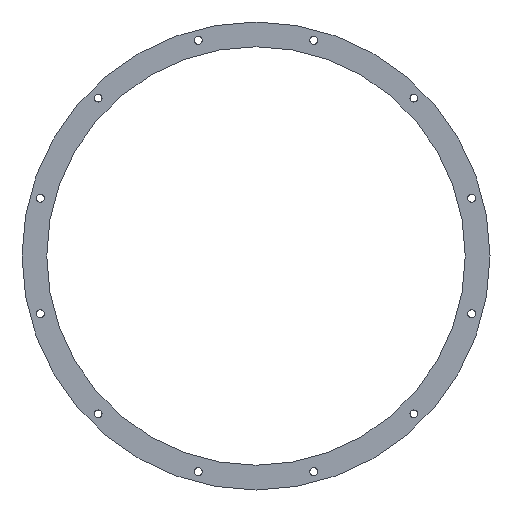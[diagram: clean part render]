
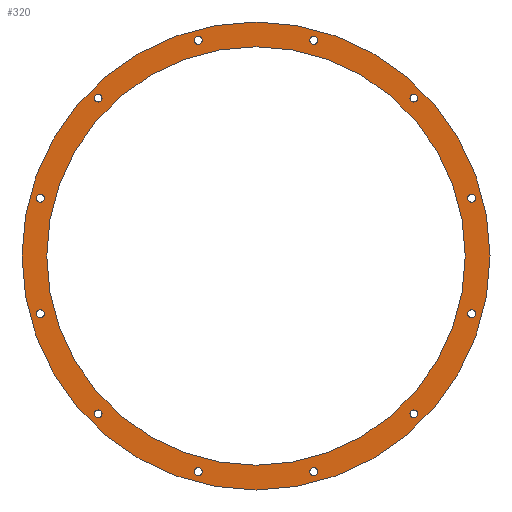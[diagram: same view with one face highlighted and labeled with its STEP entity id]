
A CAD part, left-side view. The second image highlights one B-rep face of the part: STEP entity #320.
In plain terms, the highlighted planar face has unit normal (-1, 0, 0).
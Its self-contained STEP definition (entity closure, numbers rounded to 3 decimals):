
#17=PLANE('',#376);
#47=FACE_BOUND('',#125,.T.);
#48=FACE_BOUND('',#126,.T.);
#49=FACE_BOUND('',#127,.T.);
#50=FACE_BOUND('',#128,.T.);
#51=FACE_BOUND('',#129,.T.);
#52=FACE_BOUND('',#130,.T.);
#53=FACE_BOUND('',#131,.T.);
#54=FACE_BOUND('',#132,.T.);
#55=FACE_BOUND('',#133,.T.);
#56=FACE_BOUND('',#134,.T.);
#57=FACE_BOUND('',#135,.T.);
#58=FACE_BOUND('',#136,.T.);
#59=FACE_BOUND('',#137,.T.);
#77=FACE_OUTER_BOUND('',#124,.T.);
#124=EDGE_LOOP('',(#274));
#125=EDGE_LOOP('',(#275));
#126=EDGE_LOOP('',(#276));
#127=EDGE_LOOP('',(#277));
#128=EDGE_LOOP('',(#278));
#129=EDGE_LOOP('',(#279));
#130=EDGE_LOOP('',(#280));
#131=EDGE_LOOP('',(#281));
#132=EDGE_LOOP('',(#282));
#133=EDGE_LOOP('',(#283));
#134=EDGE_LOOP('',(#284));
#135=EDGE_LOOP('',(#285));
#136=EDGE_LOOP('',(#286));
#137=EDGE_LOOP('',(#287));
#139=CIRCLE('',#331,4.75);
#141=CIRCLE('',#334,4.75);
#143=CIRCLE('',#337,4.75);
#145=CIRCLE('',#340,4.75);
#147=CIRCLE('',#343,4.75);
#149=CIRCLE('',#346,4.75);
#151=CIRCLE('',#349,4.75);
#153=CIRCLE('',#352,4.75);
#155=CIRCLE('',#355,4.75);
#157=CIRCLE('',#358,4.75);
#159=CIRCLE('',#361,4.75);
#161=CIRCLE('',#364,4.75);
#162=CIRCLE('',#366,283.5);
#167=CIRCLE('',#375,253.5);
#169=VERTEX_POINT('',#479);
#171=VERTEX_POINT('',#484);
#173=VERTEX_POINT('',#489);
#175=VERTEX_POINT('',#494);
#177=VERTEX_POINT('',#499);
#179=VERTEX_POINT('',#504);
#181=VERTEX_POINT('',#509);
#183=VERTEX_POINT('',#514);
#185=VERTEX_POINT('',#519);
#187=VERTEX_POINT('',#524);
#189=VERTEX_POINT('',#529);
#191=VERTEX_POINT('',#534);
#192=VERTEX_POINT('',#537);
#197=VERTEX_POINT('',#551);
#199=EDGE_CURVE('',#169,#169,#139,.T.);
#201=EDGE_CURVE('',#171,#171,#141,.T.);
#203=EDGE_CURVE('',#173,#173,#143,.T.);
#205=EDGE_CURVE('',#175,#175,#145,.T.);
#207=EDGE_CURVE('',#177,#177,#147,.T.);
#209=EDGE_CURVE('',#179,#179,#149,.T.);
#211=EDGE_CURVE('',#181,#181,#151,.T.);
#213=EDGE_CURVE('',#183,#183,#153,.T.);
#215=EDGE_CURVE('',#185,#185,#155,.T.);
#217=EDGE_CURVE('',#187,#187,#157,.T.);
#219=EDGE_CURVE('',#189,#189,#159,.T.);
#221=EDGE_CURVE('',#191,#191,#161,.T.);
#222=EDGE_CURVE('',#192,#192,#162,.T.);
#227=EDGE_CURVE('',#197,#197,#167,.T.);
#274=ORIENTED_EDGE('',*,*,#222,.F.);
#275=ORIENTED_EDGE('',*,*,#199,.T.);
#276=ORIENTED_EDGE('',*,*,#201,.T.);
#277=ORIENTED_EDGE('',*,*,#203,.T.);
#278=ORIENTED_EDGE('',*,*,#205,.T.);
#279=ORIENTED_EDGE('',*,*,#207,.T.);
#280=ORIENTED_EDGE('',*,*,#209,.T.);
#281=ORIENTED_EDGE('',*,*,#211,.T.);
#282=ORIENTED_EDGE('',*,*,#213,.T.);
#283=ORIENTED_EDGE('',*,*,#215,.T.);
#284=ORIENTED_EDGE('',*,*,#217,.T.);
#285=ORIENTED_EDGE('',*,*,#219,.T.);
#286=ORIENTED_EDGE('',*,*,#221,.T.);
#287=ORIENTED_EDGE('',*,*,#227,.T.);
#320=ADVANCED_FACE('',(#77,#47,#48,#49,#50,#51,#52,#53,#54,#55,#56,#57,
#58,#59),#17,.T.);
#331=AXIS2_PLACEMENT_3D('',#480,#383,#384);
#334=AXIS2_PLACEMENT_3D('',#485,#389,#390);
#337=AXIS2_PLACEMENT_3D('',#490,#395,#396);
#340=AXIS2_PLACEMENT_3D('',#495,#401,#402);
#343=AXIS2_PLACEMENT_3D('',#500,#407,#408);
#346=AXIS2_PLACEMENT_3D('',#505,#413,#414);
#349=AXIS2_PLACEMENT_3D('',#510,#419,#420);
#352=AXIS2_PLACEMENT_3D('',#515,#425,#426);
#355=AXIS2_PLACEMENT_3D('',#520,#431,#432);
#358=AXIS2_PLACEMENT_3D('',#525,#437,#438);
#361=AXIS2_PLACEMENT_3D('',#530,#443,#444);
#364=AXIS2_PLACEMENT_3D('',#535,#449,#450);
#366=AXIS2_PLACEMENT_3D('',#538,#453,#454);
#375=AXIS2_PLACEMENT_3D('',#552,#471,#472);
#376=AXIS2_PLACEMENT_3D('',#553,#473,#474);
#383=DIRECTION('center_axis',(1.,0.,0.));
#384=DIRECTION('ref_axis',(0.,0.5,0.866));
#389=DIRECTION('center_axis',(1.,0.,0.));
#390=DIRECTION('ref_axis',(0.,0.866,0.5));
#395=DIRECTION('center_axis',(1.,0.,0.));
#396=DIRECTION('ref_axis',(0.,1.,0.));
#401=DIRECTION('center_axis',(1.,0.,0.));
#402=DIRECTION('ref_axis',(0.,0.866,-0.5));
#407=DIRECTION('center_axis',(1.,0.,0.));
#408=DIRECTION('ref_axis',(0.,0.5,-0.866));
#413=DIRECTION('center_axis',(1.,0.,0.));
#414=DIRECTION('ref_axis',(0.,0.,-1.));
#419=DIRECTION('center_axis',(1.,0.,0.));
#420=DIRECTION('ref_axis',(0.,-0.5,-0.866));
#425=DIRECTION('center_axis',(1.,0.,0.));
#426=DIRECTION('ref_axis',(0.,-0.866,-0.5));
#431=DIRECTION('center_axis',(1.,0.,0.));
#432=DIRECTION('ref_axis',(0.,-1.,0.));
#437=DIRECTION('center_axis',(1.,0.,0.));
#438=DIRECTION('ref_axis',(0.,-0.866,0.5));
#443=DIRECTION('center_axis',(1.,0.,0.));
#444=DIRECTION('ref_axis',(0.,-0.5,0.866));
#449=DIRECTION('center_axis',(1.,0.,0.));
#450=DIRECTION('ref_axis',(0.,0.,1.));
#453=DIRECTION('center_axis',(1.,0.,0.));
#454=DIRECTION('ref_axis',(0.,0.,-1.));
#471=DIRECTION('center_axis',(1.,0.,0.));
#472=DIRECTION('ref_axis',(0.,0.,-1.));
#473=DIRECTION('center_axis',(-1.,0.,0.));
#474=DIRECTION('ref_axis',(0.,0.,1.));
#479=CARTESIAN_POINT('',(0.,263.658,-65.897));
#480=CARTESIAN_POINT('Origin',(0.,261.283,-70.011));
#484=CARTESIAN_POINT('',(0.,195.386,-188.897));
#485=CARTESIAN_POINT('Origin',(0.,191.272,-191.272));
#489=CARTESIAN_POINT('',(0.,74.761,-261.283));
#490=CARTESIAN_POINT('Origin',(0.,70.011,-261.283));
#494=CARTESIAN_POINT('',(0.,-65.897,-263.658));
#495=CARTESIAN_POINT('Origin',(0.,-70.011,-261.283));
#499=CARTESIAN_POINT('',(0.,-188.897,-195.386));
#500=CARTESIAN_POINT('Origin',(0.,-191.272,-191.272));
#504=CARTESIAN_POINT('',(0.,-261.283,-74.761));
#505=CARTESIAN_POINT('Origin',(0.,-261.283,-70.011));
#509=CARTESIAN_POINT('',(0.,-263.658,65.897));
#510=CARTESIAN_POINT('Origin',(0.,-261.283,70.011));
#514=CARTESIAN_POINT('',(0.,-195.386,188.897));
#515=CARTESIAN_POINT('Origin',(0.,-191.272,191.272));
#519=CARTESIAN_POINT('',(0.,-74.761,261.283));
#520=CARTESIAN_POINT('Origin',(0.,-70.011,261.283));
#524=CARTESIAN_POINT('',(0.,65.897,263.658));
#525=CARTESIAN_POINT('Origin',(0.,70.011,261.283));
#529=CARTESIAN_POINT('',(0.,188.897,195.386));
#530=CARTESIAN_POINT('Origin',(0.,191.272,191.272));
#534=CARTESIAN_POINT('',(0.,261.283,74.761));
#535=CARTESIAN_POINT('Origin',(0.,261.283,70.011));
#537=CARTESIAN_POINT('',(0.,283.5,0.));
#538=CARTESIAN_POINT('Origin',(0.,0.,0.));
#551=CARTESIAN_POINT('',(0.,253.5,0.));
#552=CARTESIAN_POINT('Origin',(0.,0.,0.));
#553=CARTESIAN_POINT('Origin',(0.,283.5,0.));
